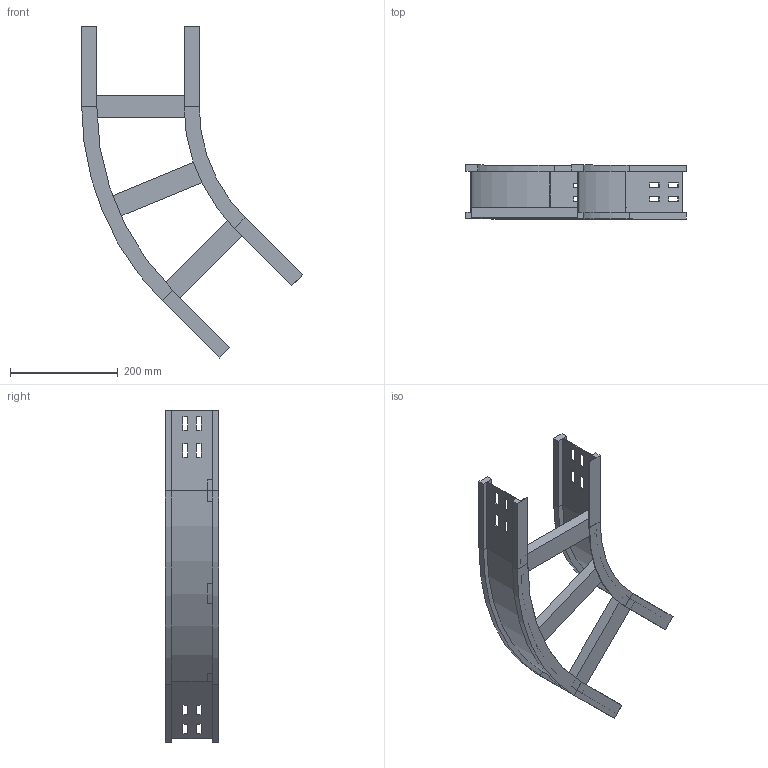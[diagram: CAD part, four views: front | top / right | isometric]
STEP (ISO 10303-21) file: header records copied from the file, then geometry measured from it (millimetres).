
FILE_DESCRIPTION (( 'STEP AP214' ), '1' );
FILE_NAME ('11S3D200.step', '2025-02-21T16:03:02', ( '' ), ( '' ), 'SwSTEP 2.0', 'SolidWorks 2023', '' );
FILE_SCHEMA (( 'AUTOMOTIVE_DESIGN' ));
Length unit declared in the file: millimetre
Products named in the file (4): TRAVERSINO_200; LONGH.ESTERNO 45°_H100_R300+200; LONGH.INTERNO 45°_H100_R300; 11S3D200
Assembly tree (5 placements, depth 2):
  11S3D200
    LONGH.INTERNO 45°_H100_R300
    LONGH.ESTERNO 45°_H100_R300+200
    TRAVERSINO_200  x3
Bounding box: 409.3 x 100 x 615.98 mm (x, y, z)
Volume: 1124625.9 mm3; surface area: 437734.6 mm2
Topology: 5 solids, 5 shells, 158 faces, 396 edges, 248 vertices
Faces by surface type: plane 146, cylinder 12
Entity records: 4477 total; most frequent: CARTESIAN_POINT 758, ORIENTED_EDGE 744, DIRECTION 704, EDGE_CURVE 372, LINE 348, VECTOR 348, VERTEX_POINT 232, AXIS2_PLACEMENT_3D 178
